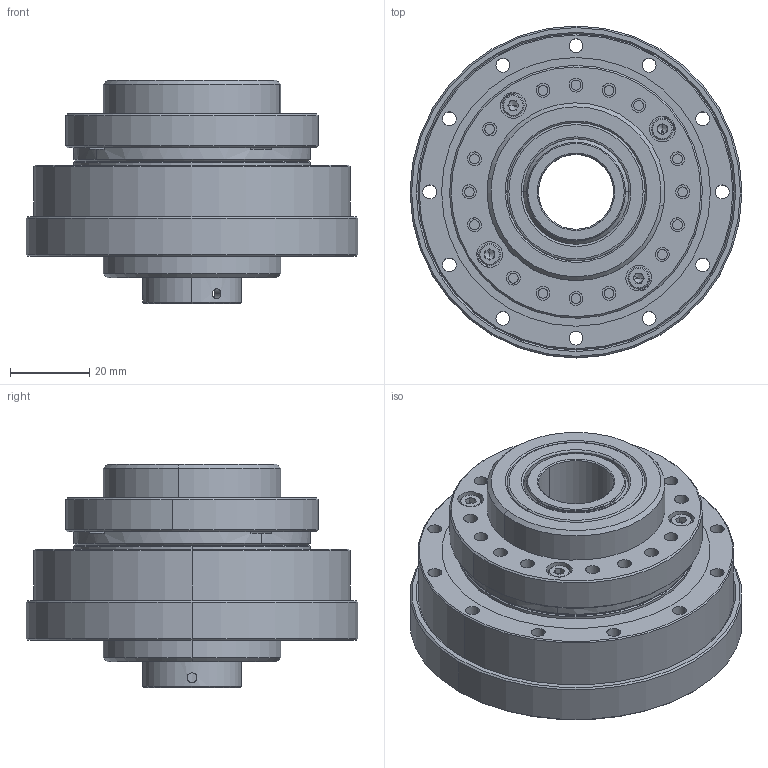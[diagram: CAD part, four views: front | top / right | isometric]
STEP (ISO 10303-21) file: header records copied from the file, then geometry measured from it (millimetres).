
FILE_DESCRIPTION (( 'STEP AP203' ), '1' );
FILE_NAME ('BHS-17-XXX-U-¢ó.STEP', '2019-01-15T03:44:41', ( 'User' ), ( 'China' ), 'SwSTEP 2.0', 'SolidWorks 2015', '' );
FILE_SCHEMA (( 'CONFIG_CONTROL_DESIGN' ));
Length unit declared in the file: millimetre
Products named in the file (1): BHS-17-XXX-U-ｋ
Bounding box: 84 x 84 x 56.5 mm (x, y, z)
Surface area: 33506 mm2 (no closed solid volume)
Topology: 0 solids, 19 shells, 306 faces, 916 edges, 592 vertices
Faces by surface type: cylinder 144, plane 86, cone 60, torus 16
Entity records: 10597 total; most frequent: CARTESIAN_POINT 2027, DIRECTION 1986, ORIENTED_EDGE 1478, EDGE_CURVE 900, AXIS2_PLACEMENT_3D 791, VERTEX_POINT 592, CIRCLE 484, EDGE_LOOP 404
